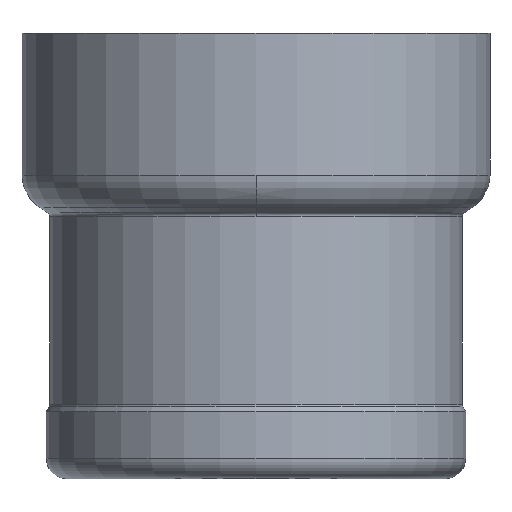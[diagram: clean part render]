
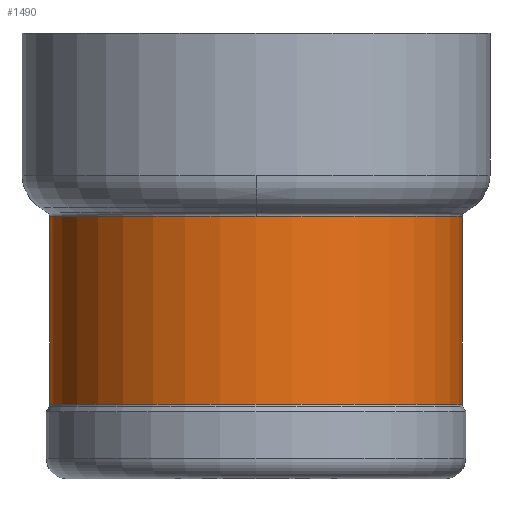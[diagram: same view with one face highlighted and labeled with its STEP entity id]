
A CAD part, left-side view. The second image highlights one B-rep face of the part: STEP entity #1490.
In plain terms, the highlighted cylindrical face has radius 20 mm (diameter 40 mm), a partial arc.
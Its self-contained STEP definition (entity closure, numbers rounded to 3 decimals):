
#1040=CARTESIAN_POINT('',(115.815,38.7,0.));
#1050=DIRECTION('',(-1.,0.,-0.));
#1060=DIRECTION('',(0.,-1.,0.));
#1070=AXIS2_PLACEMENT_3D('',#1040,#1050,#1060);
#1080=CYLINDRICAL_SURFACE('',#1070,20.);
#1090=CARTESIAN_POINT('',(115.815,58.7,0.));
#1100=DIRECTION('',(-1.,0.,-0.));
#1110=VECTOR('',#1100,1.);
#1120=LINE('',#1090,#1110);
#1130=CARTESIAN_POINT('',(127.934,58.7,
0.));
#1140=VERTEX_POINT('',#1130);
#1150=CARTESIAN_POINT('',(109.704,58.7,
0.));
#1160=VERTEX_POINT('',#1150);
#1170=EDGE_CURVE('',#1140,#1160,#1120,.T.);
#1180=ORIENTED_EDGE('',*,*,#1170,.T.);
#1190=CARTESIAN_POINT('',(127.934,38.7,0.));
#1200=DIRECTION('',(-1.,0.,-0.));
#1210=DIRECTION('',(0.,0.,-1.));
#1220=AXIS2_PLACEMENT_3D('',#1190,#1200,#1210);
#1230=CIRCLE('',#1220,20.);
#1240=CARTESIAN_POINT('',(127.934,38.7,20.));
#1250=VERTEX_POINT('',#1240);
#1260=EDGE_CURVE('',#1250,#1140,#1230,.T.);
#1270=ORIENTED_EDGE('',*,*,#1260,.T.);
#1280=CARTESIAN_POINT('',(127.934,18.7,
0.));
#1290=VERTEX_POINT('',#1280);
#1300=EDGE_CURVE('',#1290,#1250,#1230,.T.);
#1310=ORIENTED_EDGE('',*,*,#1300,.T.);
#1320=CARTESIAN_POINT('',(115.815,18.7,0.));
#1330=DIRECTION('',(-1.,0.,-0.));
#1340=VECTOR('',#1330,1.);
#1350=LINE('',#1320,#1340);
#1360=CARTESIAN_POINT('',(109.704,18.7,
0.));
#1370=VERTEX_POINT('',#1360);
#1380=EDGE_CURVE('',#1290,#1370,#1350,.T.);
#1390=ORIENTED_EDGE('',*,*,#1380,.F.);
#1400=CARTESIAN_POINT('',(109.704,38.7,0.));
#1410=DIRECTION('',(-1.,0.,-0.));
#1420=DIRECTION('',(0.,-1.,0.));
#1430=AXIS2_PLACEMENT_3D('',#1400,#1410,#1420);
#1440=CIRCLE('',#1430,20.);
#1450=EDGE_CURVE('',#1370,#1160,#1440,.T.);
#1460=ORIENTED_EDGE('',*,*,#1450,.F.);
#1470=EDGE_LOOP('',(#1460,#1390,#1310,#1270,#1180));
#1480=FACE_OUTER_BOUND('',#1470,.T.);
#1490=ADVANCED_FACE('',(#1480),#1080,.T.);
